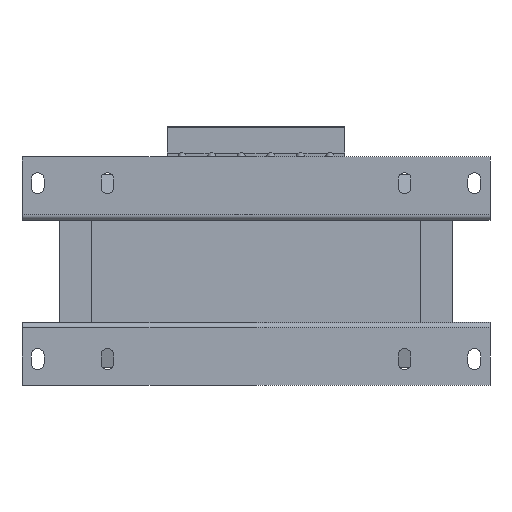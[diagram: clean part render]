
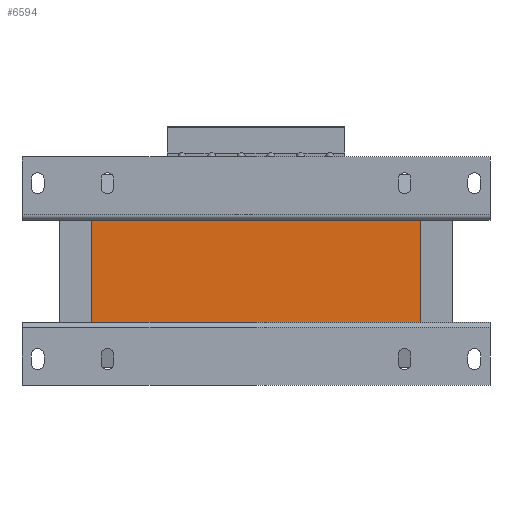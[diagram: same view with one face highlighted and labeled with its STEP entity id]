
A CAD part, front view. The second image highlights one B-rep face of the part: STEP entity #6594.
In plain terms, the highlighted planar face has unit normal (0, -1, 0).
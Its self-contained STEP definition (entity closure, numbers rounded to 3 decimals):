
#419 = CARTESIAN_POINT ( 'NONE',  ( 62.5, 7., -19.45 ) ) ;
#565 = CARTESIAN_POINT ( 'NONE',  ( -62.5, 7., -19.45 ) ) ;
#577 = CARTESIAN_POINT ( 'NONE',  ( 62.5, 7., 19.45 ) ) ;
#624 = LINE ( 'NONE', #9375, #929 ) ;
#770 = DIRECTION ( 'NONE',  ( 0., 0., -1. ) ) ;
#929 = VECTOR ( 'NONE', #1659, 1000. ) ;
#1584 = DIRECTION ( 'NONE',  ( 1., 0., 0. ) ) ;
#1659 = DIRECTION ( 'NONE',  ( 0., 0., -1. ) ) ;
#1780 = VERTEX_POINT ( 'NONE', #577 ) ;
#2008 = ORIENTED_EDGE ( 'NONE', *, *, #4604, .F. ) ;
#2606 = ORIENTED_EDGE ( 'NONE', *, *, #9614, .T. ) ;
#2972 = PLANE ( 'NONE',  #13901 ) ;
#3863 = DIRECTION ( 'NONE',  ( 0., 0., 1. ) ) ;
#4373 = VECTOR ( 'NONE', #10434, 1000. ) ;
#4604 = EDGE_CURVE ( 'NONE', #12358, #1780, #5972, .T. ) ;
#4874 = CARTESIAN_POINT ( 'NONE',  ( -62.5, 7., 20.45 ) ) ;
#5972 = LINE ( 'NONE', #12693, #4373 ) ;
#6076 = CARTESIAN_POINT ( 'NONE',  ( -62.5, 7., 19.45 ) ) ;
#6162 = LINE ( 'NONE', #419, #8202 ) ;
#6514 = EDGE_LOOP ( 'NONE', ( #13780, #2008, #2606, #10211 ) ) ;
#6518 = LINE ( 'NONE', #14119, #13083 ) ;
#6594 = ADVANCED_FACE ( 'NONE', ( #11574 ), #2972, .F. ) ;
#7403 = DIRECTION ( 'NONE',  ( 0., 1., 0. ) ) ;
#8202 = VECTOR ( 'NONE', #1584, 1000. ) ;
#8660 = CARTESIAN_POINT ( 'NONE',  ( 62.5, 7., -19.45 ) ) ;
#9375 = CARTESIAN_POINT ( 'NONE',  ( -62.5, 7., 20.45 ) ) ;
#9614 = EDGE_CURVE ( 'NONE', #12358, #12923, #624, .T. ) ;
#10211 = ORIENTED_EDGE ( 'NONE', *, *, #12088, .T. ) ;
#10434 = DIRECTION ( 'NONE',  ( 1., 0., 0. ) ) ;
#10714 = EDGE_CURVE ( 'NONE', #1780, #11058, #6518, .T. ) ;
#11058 = VERTEX_POINT ( 'NONE', #8660 ) ;
#11574 = FACE_OUTER_BOUND ( 'NONE', #6514, .T. ) ;
#12088 = EDGE_CURVE ( 'NONE', #12923, #11058, #6162, .T. ) ;
#12358 = VERTEX_POINT ( 'NONE', #6076 ) ;
#12693 = CARTESIAN_POINT ( 'NONE',  ( 62.5, 7., 19.45 ) ) ;
#12923 = VERTEX_POINT ( 'NONE', #565 ) ;
#13083 = VECTOR ( 'NONE', #770, 1000. ) ;
#13780 = ORIENTED_EDGE ( 'NONE', *, *, #10714, .F. ) ;
#13901 = AXIS2_PLACEMENT_3D ( 'NONE', #4874, #7403, #3863 ) ;
#14119 = CARTESIAN_POINT ( 'NONE',  ( 62.5, 7., 20.45 ) ) ;
